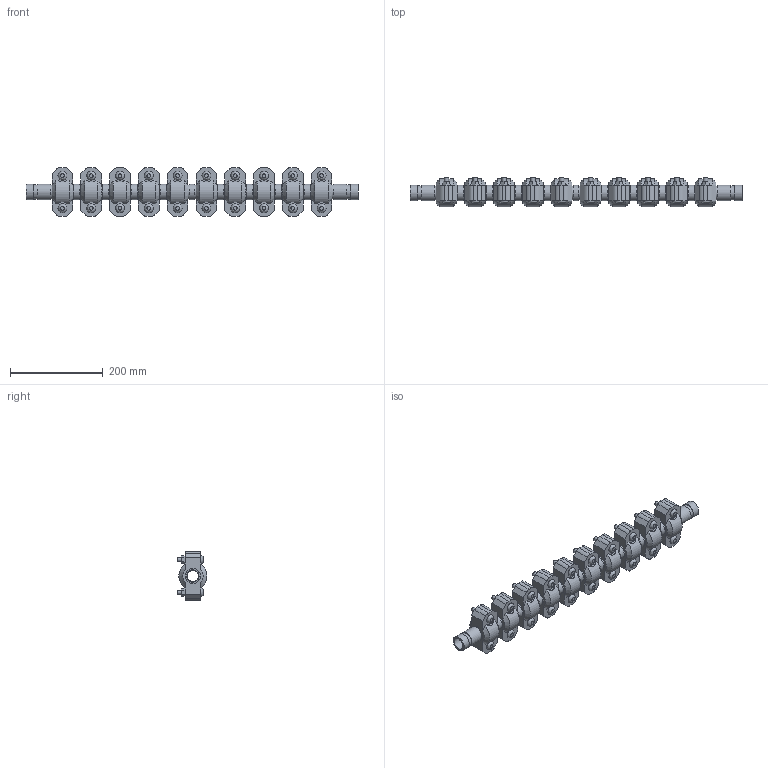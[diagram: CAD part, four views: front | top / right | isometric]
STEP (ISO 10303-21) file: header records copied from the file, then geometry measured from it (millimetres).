
FILE_DESCRIPTION(/* description */ ('VIC EXPANSION JOINT 10 COUPLINGS EXPANDED STYLE 155 (OGS)','CAx-IF Rec.Pracs.---Representation and Presentation of Product Manufacturing Information (PMI)---4.0---2014-10-13'),/* implementation_level */ '2;1');
FILE_NAME(/* name */ 'C:\Users\kkamble\AppData\Roaming\Autodesk\ApplicationPlugins\Victaulic.Temp\A992\Victaulic_IPS_Expansion Joint_Expanded_10 Couplings_Style 155 (OGS)_1 (25).stp',/* time_stamp */ '2021-06-26T23:49:12+02:00',/* author */ ('kkamble'),/* organization */ ('Victaulic'),/* preprocessor_version */ 'ST-DEVELOPER v17.2',/* originating_system */ 'Autodesk Inventor 2019',/* authorisation */ '');
FILE_SCHEMA (('AP242_MANAGED_MODEL_BASED_3D_ENGINEERING_MIM_LF { 1 0 10303 442 1 1 4 }'));
Length unit declared in the file: inch
Products named in the file (4): 155-01.0; Nipple-01.0; Nipple-01.0_1; 077-01.0
Assembly tree (21 placements, depth 2):
  155-01.0
    Nipple-01.0  x2
    Nipple-01.0_1  x9
    077-01.0  x10
Bounding box: 714.5 x 64.33 x 104.65 mm (x, y, z)
Volume: 1653522.5 mm3; surface area: 437995.6 mm2
Topology: 21 solids, 41 shells, 742 faces, 1780 edges, 1244 vertices
Faces by surface type: plane 426, cylinder 256, cone 40, bspline 20
Full cylindrical faces by diameter (mm): 9.525 x40, 11.43 x20, 24.511 x10, 26.645 x11, 30.226 x22, 33.401 x53
Entity records: 3065 total; most frequent: CARTESIAN_POINT 581, DIRECTION 505, ORIENTED_EDGE 410, EDGE_CURVE 205, AXIS2_PLACEMENT_3D 204, VERTEX_POINT 146, EDGE_LOOP 111, LINE 97
